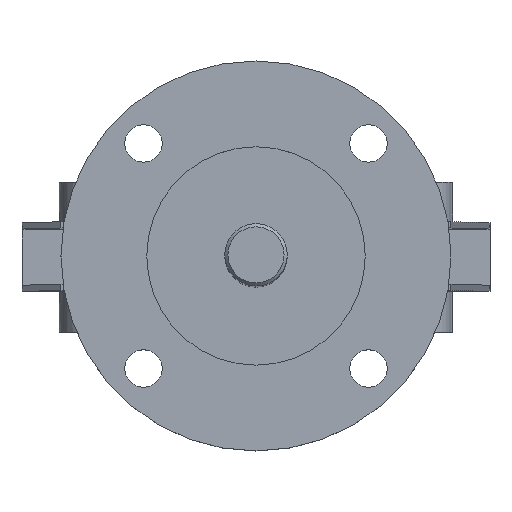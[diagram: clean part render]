
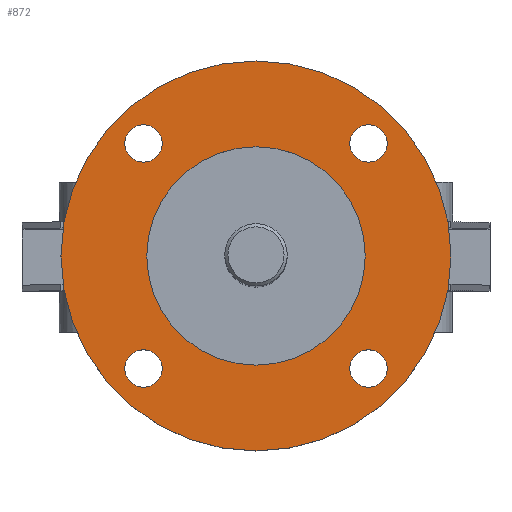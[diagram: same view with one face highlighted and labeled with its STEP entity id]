
A CAD part, top view. The second image highlights one B-rep face of the part: STEP entity #872.
In plain terms, the highlighted planar face has unit normal (0, 0, 1).
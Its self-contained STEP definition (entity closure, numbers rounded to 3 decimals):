
#872=ADVANCED_FACE('',(#2165,#2167,#2169,#2171,#2173,#2175),#2177,.T.);
#2165=FACE_BOUND('',#2166,.T.);
#2166=EDGE_LOOP('',(#3246));
#2167=FACE_BOUND('',#2168,.T.);
#2168=EDGE_LOOP('',(#3247));
#2169=FACE_BOUND('',#2170,.T.);
#2170=EDGE_LOOP('',(#3248));
#2171=FACE_BOUND('',#2172,.T.);
#2172=EDGE_LOOP('',(#3249));
#2173=FACE_BOUND('',#2174,.T.);
#2174=EDGE_LOOP('',(#3250));
#2175=FACE_BOUND('',#2176,.T.);
#2176=EDGE_LOOP('',(#3251));
#2177=PLANE('',#2178);
#2178=AXIS2_PLACEMENT_3D('',#2179,#2180,#2181);
#2179=CARTESIAN_POINT('',(0.,0.,290.));
#2180=DIRECTION('',(0.,0.,1.));
#2181=DIRECTION('',(-1.,0.,0.));
#3246=ORIENTED_EDGE('',*,*,#3729,.T.);
#3247=ORIENTED_EDGE('',*,*,#3730,.T.);
#3248=ORIENTED_EDGE('',*,*,#3731,.T.);
#3249=ORIENTED_EDGE('',*,*,#3732,.T.);
#3250=ORIENTED_EDGE('',*,*,#3853,.T.);
#3251=ORIENTED_EDGE('',*,*,#3733,.T.);
#3729=EDGE_CURVE('',#4290,#4290,#4291,.T.);
#3730=EDGE_CURVE('',#4292,#4292,#4293,.F.);
#3731=EDGE_CURVE('',#4294,#4294,#4295,.F.);
#3732=EDGE_CURVE('',#4296,#4296,#4297,.F.);
#3733=EDGE_CURVE('',#4298,#4298,#4299,.F.);
#3853=EDGE_CURVE('',#4501,#4501,#4502,.F.);
#4290=VERTEX_POINT('',#5428);
#4291=CIRCLE('',#5429,62.5);
#4292=VERTEX_POINT('',#5433);
#4293=CIRCLE('',#5434,6.);
#4294=VERTEX_POINT('',#5438);
#4295=CIRCLE('',#5439,6.);
#4296=VERTEX_POINT('',#5443);
#4297=CIRCLE('',#5444,6.);
#4298=VERTEX_POINT('',#5448);
#4299=CIRCLE('',#5449,6.);
#4501=VERTEX_POINT('',#5937);
#4502=CIRCLE('',#5938,35.);
#5428=CARTESIAN_POINT('',(-62.5,0.,290.));
#5429=AXIS2_PLACEMENT_3D('',#5430,#5431,#5432);
#5430=CARTESIAN_POINT('',(0.,0.,290.));
#5431=DIRECTION('',(0.,0.,1.));
#5432=DIRECTION('',(-1.,0.,0.));
#5433=CARTESIAN_POINT('',(-42.062,-36.062,290.));
#5434=AXIS2_PLACEMENT_3D('',#5435,#5436,#5437);
#5435=CARTESIAN_POINT('',(-36.062,-36.062,290.));
#5436=DIRECTION('',(0.,0.,1.));
#5437=DIRECTION('',(-1.,0.,0.));
#5438=CARTESIAN_POINT('',(36.062,-42.062,290.));
#5439=AXIS2_PLACEMENT_3D('',#5440,#5441,#5442);
#5440=CARTESIAN_POINT('',(36.062,-36.062,290.));
#5441=DIRECTION('',(0.,0.,1.));
#5442=DIRECTION('',(0.,-1.,0.));
#5443=CARTESIAN_POINT('',(42.062,36.062,290.));
#5444=AXIS2_PLACEMENT_3D('',#5445,#5446,#5447);
#5445=CARTESIAN_POINT('',(36.062,36.062,290.));
#5446=DIRECTION('',(0.,0.,1.));
#5447=DIRECTION('',(1.,0.,-0.));
#5448=CARTESIAN_POINT('',(-36.062,42.062,290.));
#5449=AXIS2_PLACEMENT_3D('',#5450,#5451,#5452);
#5450=CARTESIAN_POINT('',(-36.062,36.062,290.));
#5451=DIRECTION('',(0.,0.,1.));
#5452=DIRECTION('',(0.,1.,0.));
#5937=CARTESIAN_POINT('',(0.,35.,290.));
#5938=AXIS2_PLACEMENT_3D('',#5939,#5940,#5941);
#5939=CARTESIAN_POINT('',(0.,0.,290.));
#5940=DIRECTION('',(0.,0.,1.));
#5941=DIRECTION('',(0.,1.,0.));
